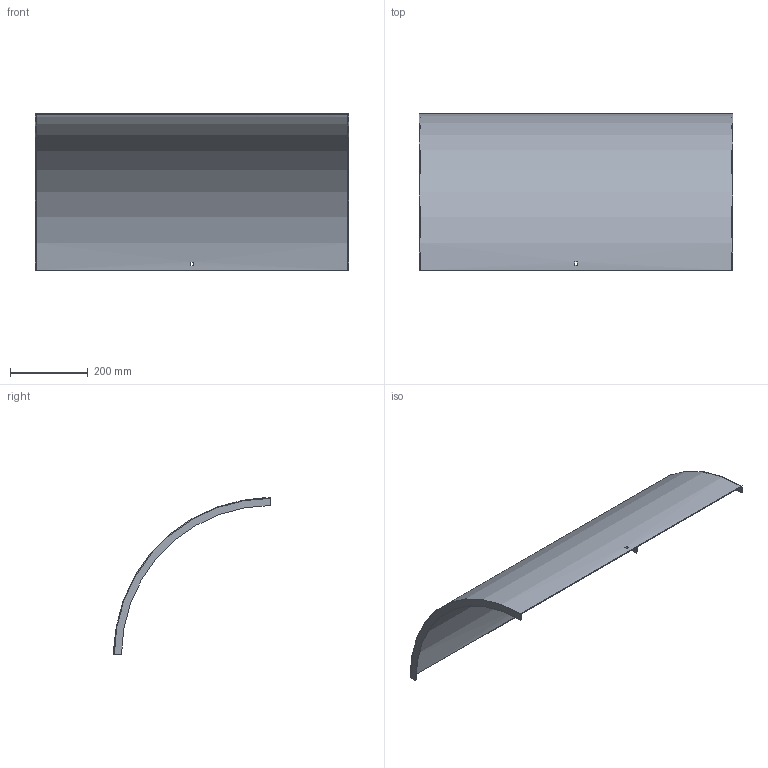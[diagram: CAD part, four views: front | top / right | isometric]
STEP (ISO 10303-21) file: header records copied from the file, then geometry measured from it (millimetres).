
FILE_DESCRIPTION (( 'STEP AP214' ), '1' );
FILE_NAME ('B2_33N3D800.step', '2025-02-21T10:47:19', ( '' ), ( '' ), 'SwSTEP 2.0', 'SolidWorks 2023', '' );
FILE_SCHEMA (( 'AUTOMOTIVE_DESIGN' ));
Length unit declared in the file: millimetre
Products named in the file (1): B2_33N3D800
Bounding box: 803 x 401.5 x 401.5 mm (x, y, z)
Volume: 792118.3 mm3; surface area: 1060572.1 mm2
Topology: 1 solids, 1 shells, 18 faces, 48 edges, 32 vertices
Faces by surface type: plane 14, cylinder 4
Entity records: 599 total; most frequent: DIRECTION 102, CARTESIAN_POINT 99, ORIENTED_EDGE 96, EDGE_CURVE 48, AXIS2_PLACEMENT_3D 35, VERTEX_POINT 32, LINE 32, VECTOR 32
